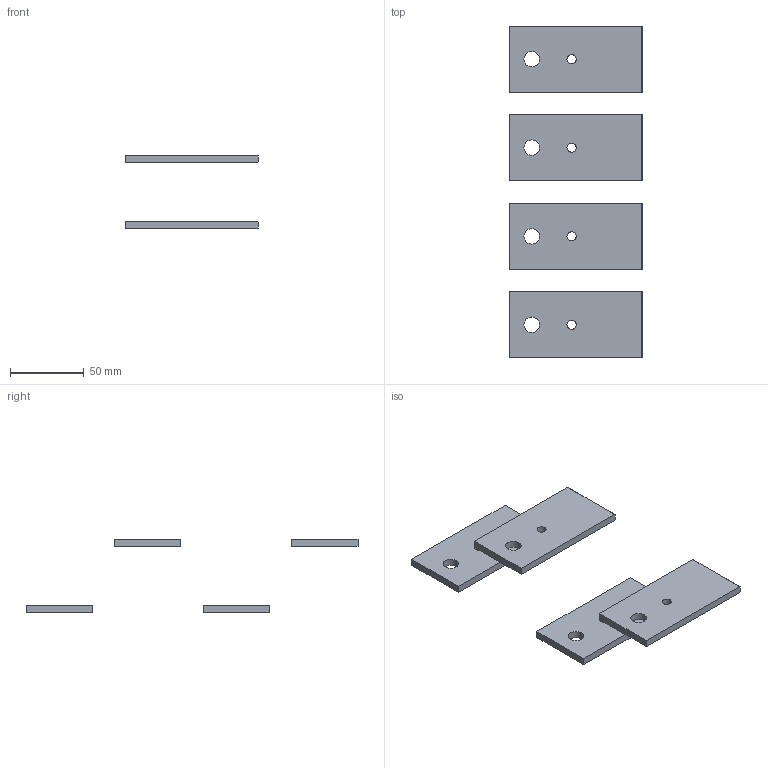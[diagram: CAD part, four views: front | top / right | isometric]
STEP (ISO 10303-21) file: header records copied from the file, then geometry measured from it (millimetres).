
FILE_DESCRIPTION(('CAx-IF Rec.Pracs.---Model Styling and Organization---1.2---2011-12-15','CAx-IF Rec.Pracs.---Geometric and Assembly Validation Properties---4.1---2014-06-16','CAx-IF Rec.Pracs.---PMI Polyline Presentation---2.0---2013-05-24'),'2;1');
FILE_NAME('R5M2WBB4P6-2.stp','2021-05-05T11:54:09+03:00',(''),(''),'STEP Interface 4.4 by CT CoreTechnologie','3D_Evolution4.4 by CT CoreTechnologie','');
FILE_SCHEMA(('AUTOMOTIVE_DESIGN { 1 0 10303 214 1 1 1 1 }'));
Length unit declared in the file: millimetre
Products named in the file (2): R5M2WBB4P6-2; RB.1291.00.00.0_-01
Assembly tree (4 placements, depth 2):
  R5M2WBB4P6-2
    RB.1291.00.00.0_-01  x4
Bounding box: 90 x 225 x 50 mm (x, y, z)
Surface area: 37807.6 mm2 (no closed solid volume)
Topology: 0 solids, 4 shells, 48 faces, 120 edges, 80 vertices
Faces by surface type: plane 32, cylinder 16
Entity records: 503 total; most frequent: DIRECTION 72, CARTESIAN_POINT 67, ORIENTED_EDGE 60, EDGE_CURVE 30, AXIS2_PLACEMENT_3D 25, VECTOR 22, LINE 22, VERTEX_POINT 20
